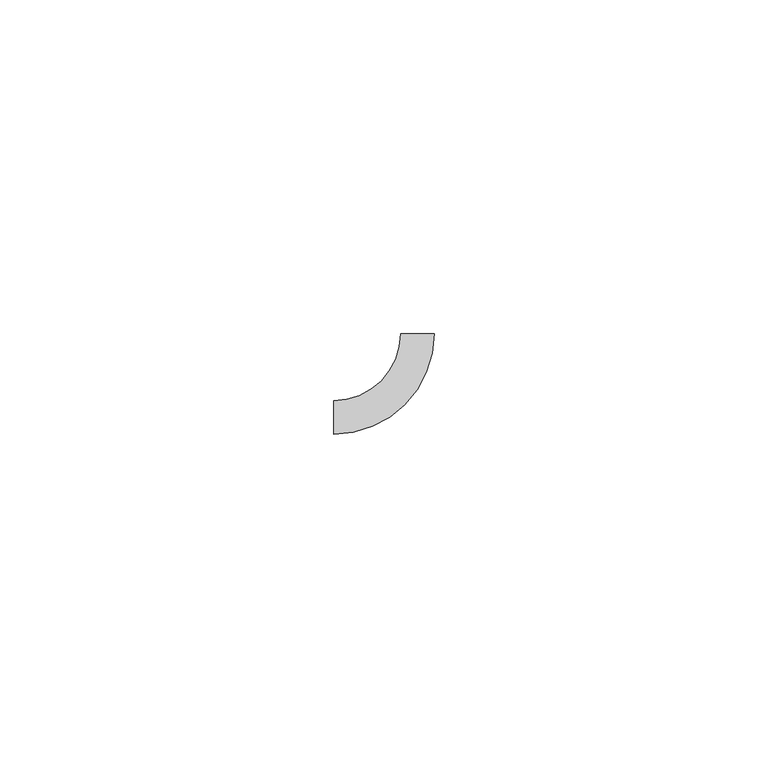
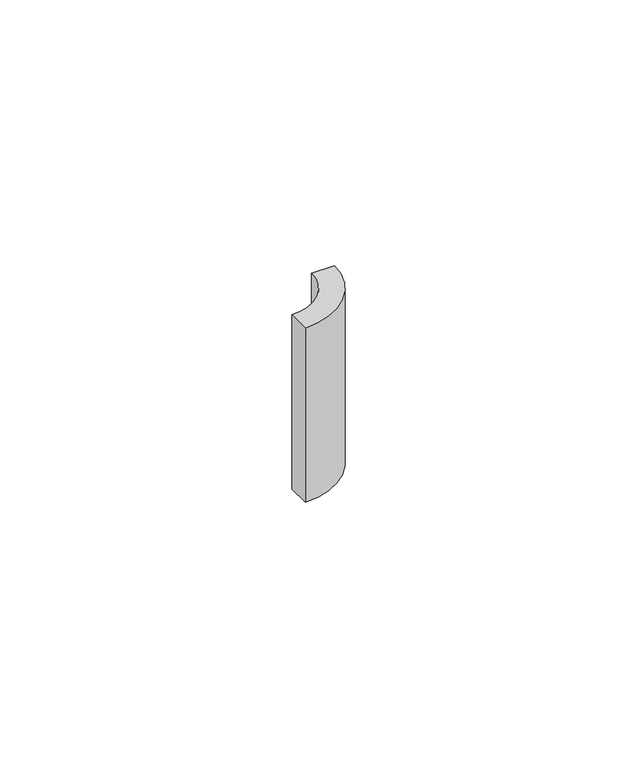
"""IFC4 building model written with IfcOpenShell, lengths in millimetres: duct fitting geometry, КНС_Поворот_Полоса_Неспецифицируемое_DKC : Изгиб полосы."""

from ifc_helpers import new_model, si_unit, point, frame, frame_2d, origin, place, context, project, spatial, polyline, circle_curve, trimmed, segment, composite_curve, outline, extrude, source, transform, mapped, element, save


def duct_fitting_b2aa22a6(model_context):
    return source(origin(), model_context, "Body", "SweptSolid", [
        extrude(outline(composite_curve([segment(trimmed(circle_curve(frame_2d((-12.5, 12.5)), 15.0), [point((2.5, 12.5))], [point((-12.5, -2.5))], False, "CARTESIAN"), True, "CONTINUOUS"), segment(polyline([(-12.5, -2.5), (-12.5, 2.5)]), True, "CONTINUOUS"), segment(trimmed(circle_curve(frame_2d((-12.5, 12.5)), 10.0), [point((-12.5, 2.5))], [point((-2.5, 12.5))], True, "CARTESIAN"), True, "CONTINUOUS"), segment(polyline([(-2.5, 12.5), (2.5, 12.5)]), True, "CONTINUOUS")], self_intersect=False)), frame((0.0, 0.0, -20.0), z_axis=(0.0, 0.0, 1.0), x_axis=(1.0, 0.0, 0.0)), (0.0, 0.0, 1.0), 40.0),
    ])


if __name__ == "__main__":
    model = new_model("IFC4")
    model_context = context("Model", 3, world=origin())
    ifc_project = project(units=[si_unit("LENGTHUNIT", "METRE", prefix="MILLI")], contexts=[model_context])
    site = spatial("IfcSite", under=ifc_project)
    building = spatial("IfcBuilding", under=site)
    placement = place(None, origin())
    duct_fitting_shape = duct_fitting_b2aa22a6(model_context)
    element("IfcDuctFitting", 1, ObjectType="КНС_Поворот_Полоса_Неспецифицируемое_DKC : Изгиб полосы", at=placement, inside=building, context=model_context, shape_type="MappedRepresentation", body=[
        mapped(duct_fitting_shape, transform((0.0, 0.0, 0.0), x_axis=(1.0, 0.0, 0.0), y_axis=(0.0, 1.0, 0.0), z_axis=(0.0, 0.0, 1.0))),
    ])
    save(model, "model.ifc")
